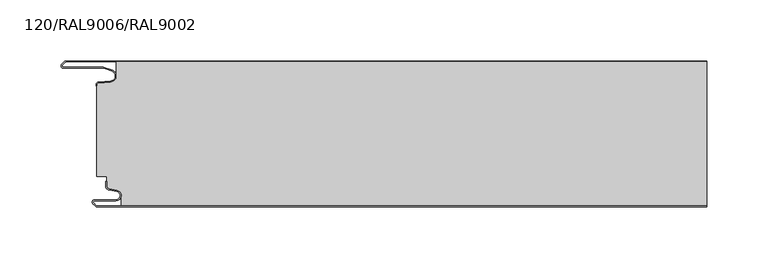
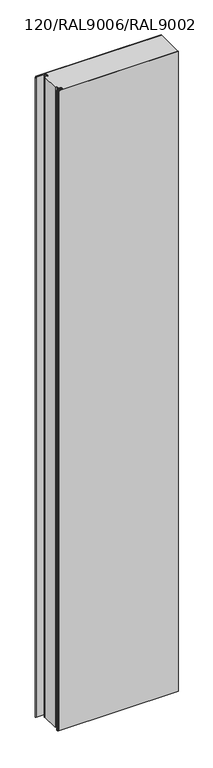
"""IFC4 building model written with IfcOpenShell, lengths in millimetres: plate geometry, TR_C_V_FHL_Panel_cut_GROOVE : 120/RAL9006/RAL9002."""

from ifc_helpers import new_model, si_unit, point, frame_2d, origin, origin_with_axes, place, context, project, spatial, polyline, circle_curve, trimmed, segment, composite_curve, outline, extrude, source, transform, mapped, element, save


def plate_120_ral9006_ral9002_23705594(model_context):
    return source(origin(), model_context, "Body", "SweptSolid", [
        extrude(outline(composite_curve([segment(polyline([(-242.9000002, -99.0), (-242.1000002, -99.0), (-242.1000002, -102.3925589)]), True, "CONTINUOUS"), segment(trimmed(circle_curve(frame_2d((-239.1500002, -102.3925589)), 2.95), [point((-242.1000002, -102.3925589))], [point((-239.6622623, -105.2977418))], True, "CARTESIAN"), True, "CONTINUOUS"), segment(polyline([(-239.6622623, -105.2977418), (-233.6119954, -106.364567)]), True, "CONTINUOUS"), segment(trimmed(circle_curve(frame_2d((-234.3500002, -110.55)), 4.25), [point((-233.6119954, -106.364567))], [point((-234.3500002, -114.8))], False, "CARTESIAN"), True, "CONTINUOUS"), segment(polyline([(-234.3500002, -114.8), (-251.9500002, -114.8)]), True, "CONTINUOUS"), segment(trimmed(circle_curve(frame_2d((-251.9500002, -115.95)), 1.15), [point((-251.9500002, -114.8))], [point((-252.763173, -116.7631728))], True, "CARTESIAN"), True, "CONTINUOUS"), segment(polyline([(-252.763173, -116.7631728), (-250.8974875, -118.6288582)]), True, "CONTINUOUS"), segment(trimmed(circle_curve(frame_2d((-249.5186293, -117.25)), 1.95), [point((-250.8974875, -118.6288582))], [point((-249.5186293, -119.2))], True, "CARTESIAN"), True, "CONTINUOUS"), segment(polyline([(-249.5186293, -119.2), (250.0000002, -119.2), (250.0000002, -120.0), (-249.5186293, -120.0)]), True, "CONTINUOUS"), segment(trimmed(circle_curve(frame_2d((-249.5186293, -117.25)), 2.75), [point((-249.5186293, -120.0))], [point((-251.463173, -119.1945436))], False, "CARTESIAN"), True, "CONTINUOUS"), segment(polyline([(-251.463173, -119.1945436), (-253.3288584, -117.3288582)]), True, "CONTINUOUS"), segment(trimmed(circle_curve(frame_2d((-251.9500002, -115.95)), 1.95), [point((-253.3288584, -117.3288582))], [point((-251.9500002, -114.0))], False, "CARTESIAN"), True, "CONTINUOUS"), segment(polyline([(-251.9500002, -114.0), (-234.3500002, -114.0)]), True, "CONTINUOUS"), segment(trimmed(circle_curve(frame_2d((-234.3500002, -110.55)), 3.45), [point((-234.3500002, -114.0))], [point((-233.7509139, -107.1524133))], True, "CARTESIAN"), True, "CONTINUOUS"), segment(polyline([(-233.7509139, -107.1524133), (-239.8011808, -106.085588)]), True, "CONTINUOUS"), segment(trimmed(circle_curve(frame_2d((-239.1500002, -102.3925589)), 3.75), [point((-239.8011808, -106.085588))], [point((-242.9000002, -102.3925589))], False, "CARTESIAN"), True, "CONTINUOUS"), segment(polyline([(-242.9000002, -102.3925589), (-242.9000002, -99.0)]), True, "CONTINUOUS")], self_intersect=False)), origin_with_axes(), (0.0, 0.0, 1.0), 2830.0),
        extrude(outline(composite_curve([segment(polyline([(-230.1000002, -119.2), (-230.1000002, -110.55)]), True, "CONTINUOUS"), segment(trimmed(circle_curve(frame_2d((-234.3500002, -110.55)), 4.25), [point((-230.1000002, -110.55))], [point((-233.6119954, -106.364567))], True, "CARTESIAN"), True, "CONTINUOUS"), segment(polyline([(-233.6119954, -106.364567), (-239.6622623, -105.2977418)]), True, "CONTINUOUS"), segment(trimmed(circle_curve(frame_2d((-239.1500002, -102.3925589)), 2.95), [point((-239.6622623, -105.2977418))], [point((-242.1000002, -102.3925589))], False, "CARTESIAN"), True, "CONTINUOUS"), segment(polyline([(-242.1000002, -102.3925589), (-242.1000002, -94.86), (-250.0000002, -94.86), (-250.0000002, -20.8), (-249.9000002, -19.7908279)]), True, "CONTINUOUS"), segment(trimmed(circle_curve(frame_2d((-248.2000002, -19.7908279)), 1.7), [point((-249.9000002, -19.7908279))], [point((-248.3481649, -18.0972969))], False, "CARTESIAN"), True, "CONTINUOUS"), segment(polyline([(-248.3481649, -18.0972969), (-238.4735886, -17.2333835)]), True, "CONTINUOUS"), segment(trimmed(circle_curve(frame_2d((-238.9006517, -12.3520294)), 4.9), [point((-238.4735886, -17.2333835))], [point((-234.0006517, -12.3520294))], True, "CARTESIAN"), True, "CONTINUOUS"), segment(polyline([(-234.0006517, -12.3520294), (-234.0006517, -0.8), (250.0000002, -0.8), (250.0000002, -119.2), (-230.1000002, -119.2)]), True, "CONTINUOUS")], self_intersect=False)), origin_with_axes(), (0.0, 0.0, 1.0), 2830.0),
        extrude(outline(composite_curve([segment(trimmed(circle_curve(frame_2d((-275.1006171, -2.7)), 2.7), [point((-277.0752721, -0.8586044))], [point((-275.1006171, 0.0))], False, "CARTESIAN"), True, "CONTINUOUS"), segment(polyline([(-275.1006171, 0.0), (250.0000002, 0.0), (250.0000002, -0.8), (-275.1006171, -0.8)]), True, "CONTINUOUS"), segment(trimmed(circle_curve(frame_2d((-275.1006171, -2.7)), 1.9), [point((-275.1006171, -0.8))], [point((-276.4901891, -1.4042031))], True, "CARTESIAN"), True, "CONTINUOUS"), segment(polyline([(-276.4901891, -1.4042031), (-278.3044892, -3.3498018)]), True, "CONTINUOUS"), segment(trimmed(circle_curve(frame_2d((-277.5000002, -4.1)), 1.1), [point((-278.3044892, -3.3498018))], [point((-277.5000002, -5.2))], True, "CARTESIAN"), True, "CONTINUOUS"), segment(polyline([(-277.5000002, -5.2), (-245.1732719, -5.2)]), True, "CONTINUOUS"), segment(trimmed(circle_curve(frame_2d((-245.1732719, -8.5)), 3.3), [point((-245.1732719, -5.2))], [point((-244.098897, -5.3797887))], False, "CARTESIAN"), True, "CONTINUOUS"), segment(polyline([(-244.098897, -5.3797887), (-237.3053678, -7.7189884)]), True, "CONTINUOUS"), segment(trimmed(circle_curve(frame_2d((-238.9006517, -12.3520294)), 4.9), [point((-237.3053678, -7.7189884))], [point((-238.4735886, -17.2333835))], False, "CARTESIAN"), True, "CONTINUOUS"), segment(polyline([(-238.4735886, -17.2333835), (-248.3481649, -18.0972969)]), True, "CONTINUOUS"), segment(trimmed(circle_curve(frame_2d((-248.2000002, -19.7908279)), 1.7), [point((-248.3481649, -18.0972969))], [point((-249.9000002, -19.7908279))], True, "CARTESIAN"), True, "CONTINUOUS"), segment(polyline([(-249.9000002, -19.7908279), (-249.9000002, -20.8), (-250.7000002, -20.8), (-250.7000002, -19.7908279)]), True, "CONTINUOUS"), segment(trimmed(circle_curve(frame_2d((-248.2000002, -19.7908279)), 2.5), [point((-250.7000002, -19.7908279))], [point((-248.4178895, -17.3003412))], False, "CARTESIAN"), True, "CONTINUOUS"), segment(polyline([(-248.4178895, -17.3003412), (-238.5433132, -16.4364277)]), True, "CONTINUOUS"), segment(trimmed(circle_curve(frame_2d((-238.9006517, -12.3520294)), 4.1), [point((-238.5433132, -16.4364277))], [point((-237.5658223, -8.4754033))], True, "CARTESIAN"), True, "CONTINUOUS"), segment(polyline([(-237.5658223, -8.4754033), (-244.3593515, -6.1362036)]), True, "CONTINUOUS"), segment(trimmed(circle_curve(frame_2d((-245.1732719, -8.5)), 2.5), [point((-244.3593515, -6.1362036))], [point((-245.1732719, -6.0))], True, "CARTESIAN"), True, "CONTINUOUS"), segment(polyline([(-245.1732719, -6.0), (-277.5000002, -6.0)]), True, "CONTINUOUS"), segment(trimmed(circle_curve(frame_2d((-277.5000002, -4.1)), 1.9), [point((-277.5000002, -6.0))], [point((-278.8895722, -2.8042031))], False, "CARTESIAN"), True, "CONTINUOUS"), segment(polyline([(-278.8895722, -2.8042031), (-277.0752721, -0.8586044)]), True, "CONTINUOUS")], self_intersect=False)), origin_with_axes(), (0.0, 0.0, 1.0), 2830.0),
    ])


if __name__ == "__main__":
    model = new_model("IFC4")
    model_context = context("Model", 3, world=origin())
    ifc_project = project(units=[si_unit("LENGTHUNIT", "METRE", prefix="MILLI")], contexts=[model_context])
    site = spatial("IfcSite", under=ifc_project)
    building = spatial("IfcBuilding", under=site)
    placement = place(None, origin())
    plate_120_ral9006_ral9002_shape = plate_120_ral9006_ral9002_23705594(model_context)
    element("IfcPlate", 1, ObjectType="TR_C_V_FHL_Panel_cut_GROOVE : 120/RAL9006/RAL9002", at=placement, inside=building, context=model_context, shape_type="MappedRepresentation", body=[
        mapped(plate_120_ral9006_ral9002_shape, transform((0.0, 0.0, 0.0), x_axis=(1.0, 0.0, 0.0), y_axis=(0.0, 1.0, 0.0), z_axis=(0.0, 0.0, 1.0))),
    ])
    save(model, "model.ifc")
